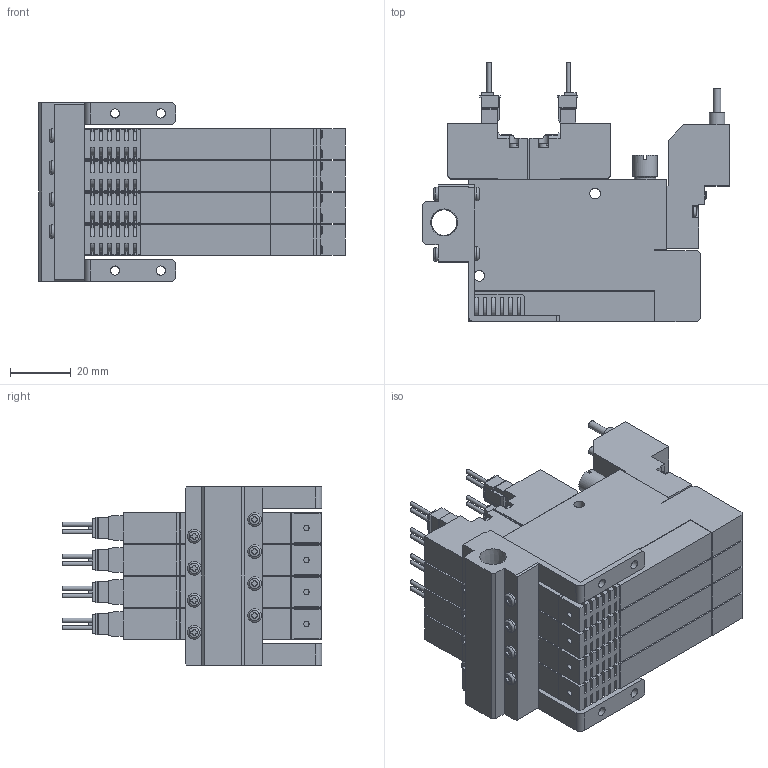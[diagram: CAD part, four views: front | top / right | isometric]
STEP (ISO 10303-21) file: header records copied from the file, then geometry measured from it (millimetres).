
FILE_DESCRIPTION(('STEP AP203'),'1');
FILE_NAME('5SS404_3D.stp','2024-09-04T13:57:52',(' '),(' '),'Spatial InterOp 3D',' ',' ');
FILE_SCHEMA(('CONFIG_CONTROL_DESIGN'));
Length unit declared in the file: millimetre
Products named in the file (5): BSC1M※※V8※5SS404; Solenoid valve S; Pressure Sensor V8; Unit-S; BaseMS40R
Assembly tree (13 placements, depth 2):
  BSC1M※※V8※5SS404
    Solenoid valve S  x4
    Pressure Sensor V8  x4
    Unit-S  x4
    BaseMS40R
Bounding box: 100.5 x 85.05 x 58.5 mm (x, y, z)
Volume: 200263.8 mm3; surface area: 82747.4 mm2
Topology: 13 solids, 13 shells, 1999 faces, 5463 edges, 3622 vertices
Faces by surface type: plane 1478, cylinder 443, cone 30, torus 28, sphere 20
Full cylindrical faces by diameter (mm): 1.4 x16, 1.8 x4, 2.5 x20, 3 x20, 3.5 x24, 4 x4, 4.134 x8, 4.5 x12, 5 x4, 5.5 x4, 7 x4, 7.7 x4, 8 x4, 8.422 x1
Entity records: 21195 total; most frequent: CARTESIAN_POINT 4655, ORIENTED_EDGE 3308, DIRECTION 3275, EDGE_CURVE 1654, LINE 1173, VECTOR 1173, VERTEX_POINT 1145, AXIS2_PLACEMENT_3D 1051
